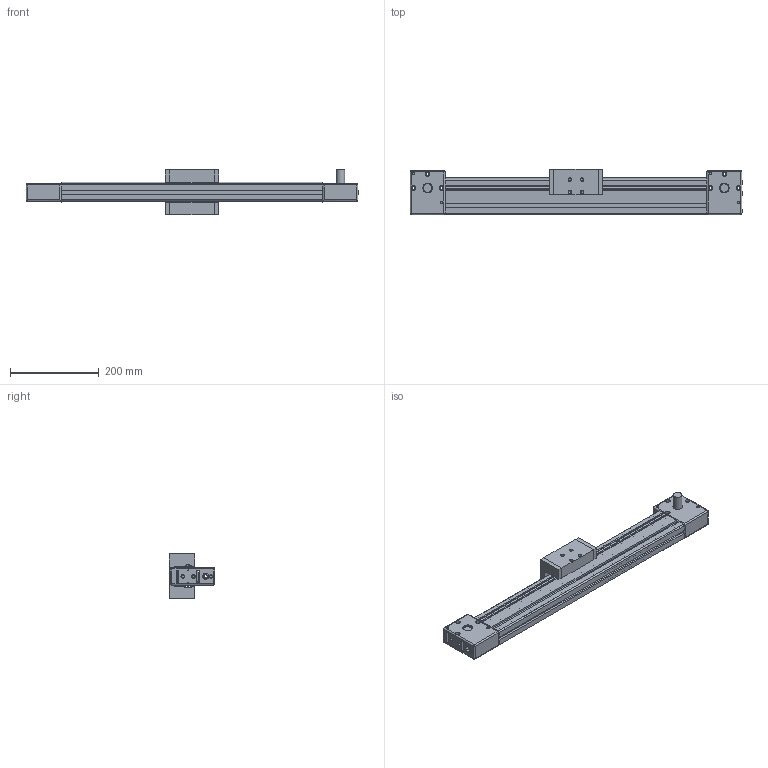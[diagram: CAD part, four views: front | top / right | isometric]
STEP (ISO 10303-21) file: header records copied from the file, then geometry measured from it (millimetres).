
FILE_DESCRIPTION (( 'STEP AP203' ), '1' );
FILE_NAME ('M6S.STEP', '2010-06-07T19:21:11', ( 'render' ), ( '' ), 'SwSTEP 2.0', 'SolidWorks 2009', '' );
FILE_SCHEMA (( 'CONFIG_CONTROL_DESIGN' ));
Length unit declared in the file: millimetre
Products named in the file (12): M6S; 4; 9; 2; 7; 5; 10; 3; 8; 1; 6; 11
Assembly tree (11 placements, depth 2):
  M6S
    4
    6
    2
    1
    8
    3
    10
    7
    5
    9
    11
Bounding box: 750 x 102 x 103.3 mm (x, y, z)
Volume: 1757637.9 mm3; surface area: 798382.2 mm2
Topology: 11 solids, 11 shells, 568 faces, 1487 edges, 950 vertices
Faces by surface type: plane 293, cylinder 183, cone 92
Entity records: 18729 total; most frequent: CARTESIAN_POINT 3289, DIRECTION 2971, ORIENTED_EDGE 2926, EDGE_CURVE 1463, AXIS2_PLACEMENT_3D 996, LINE 979, VECTOR 979, VERTEX_POINT 950
